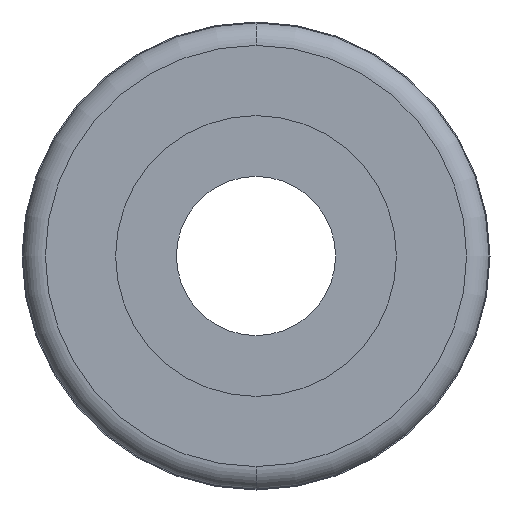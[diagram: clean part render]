
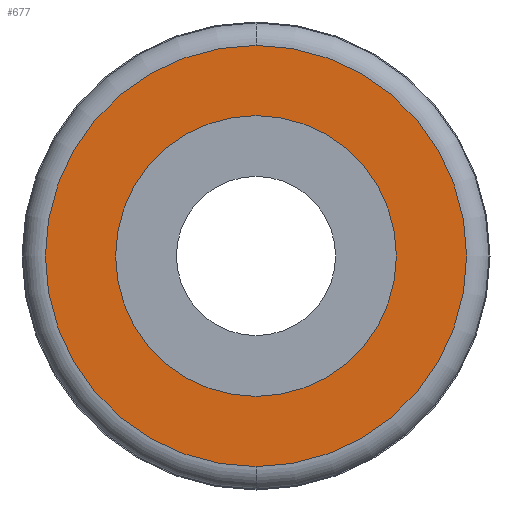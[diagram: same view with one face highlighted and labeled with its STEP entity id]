
A CAD part, front view. The second image highlights one B-rep face of the part: STEP entity #677.
In plain terms, the highlighted planar face has unit normal (0, -1, 0).
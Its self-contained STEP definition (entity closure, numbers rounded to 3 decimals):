
#28 = DIRECTION ( 'NONE',  ( 0., 1., 0. ) ) ;
#94 = EDGE_LOOP ( 'NONE', ( #203, #587 ) ) ;
#150 = AXIS2_PLACEMENT_3D ( 'NONE', #252, #28, #591 ) ;
#188 = VERTEX_POINT ( 'NONE', #640 ) ;
#189 = DIRECTION ( 'NONE',  ( 0., 0., -1. ) ) ;
#203 = ORIENTED_EDGE ( 'NONE', *, *, #213, .T. ) ;
#213 = EDGE_CURVE ( 'NONE', #536, #188, #282, .T. ) ;
#222 = AXIS2_PLACEMENT_3D ( 'NONE', #943, #947, #189 ) ;
#225 = EDGE_LOOP ( 'NONE', ( #487, #250 ) ) ;
#250 = ORIENTED_EDGE ( 'NONE', *, *, #495, .F. ) ;
#252 = CARTESIAN_POINT ( 'NONE',  ( 0., 0., 0. ) ) ;
#269 = VERTEX_POINT ( 'NONE', #434 ) ;
#282 = CIRCLE ( 'NONE', #703, 9. ) ;
#368 = CIRCLE ( 'NONE', #222, 6. ) ;
#386 = CIRCLE ( 'NONE', #930, 9. ) ;
#411 = FACE_OUTER_BOUND ( 'NONE', #94, .T. ) ;
#426 = FACE_BOUND ( 'NONE', #225, .T. ) ;
#432 = CARTESIAN_POINT ( 'NONE',  ( 0., 0., -6. ) ) ;
#434 = CARTESIAN_POINT ( 'NONE',  ( 0., 0., 6. ) ) ;
#483 = EDGE_CURVE ( 'NONE', #800, #269, #368, .T. ) ;
#487 = ORIENTED_EDGE ( 'NONE', *, *, #483, .F. ) ;
#495 = EDGE_CURVE ( 'NONE', #269, #800, #745, .T. ) ;
#536 = VERTEX_POINT ( 'NONE', #558 ) ;
#558 = CARTESIAN_POINT ( 'NONE',  ( 0., 0., 9. ) ) ;
#584 = EDGE_CURVE ( 'NONE', #188, #536, #386, .T. ) ;
#587 = ORIENTED_EDGE ( 'NONE', *, *, #584, .T. ) ;
#591 = DIRECTION ( 'NONE',  ( 0., 0., 1. ) ) ;
#603 = DIRECTION ( 'NONE',  ( 0., 0., 1. ) ) ;
#622 = CARTESIAN_POINT ( 'NONE',  ( 0., 0., 0. ) ) ;
#639 = DIRECTION ( 'NONE',  ( 0., -1., 0. ) ) ;
#640 = CARTESIAN_POINT ( 'NONE',  ( 0., 0., -9. ) ) ;
#677 = ADVANCED_FACE ( 'NONE', ( #426, #411 ), #824, .F. ) ;
#686 = CARTESIAN_POINT ( 'NONE',  ( 0., 0., 0. ) ) ;
#703 = AXIS2_PLACEMENT_3D ( 'NONE', #948, #721, #783 ) ;
#721 = DIRECTION ( 'NONE',  ( 0., -1., 0. ) ) ;
#737 = DIRECTION ( 'NONE',  ( 0., 0., -1. ) ) ;
#745 = CIRCLE ( 'NONE', #876, 6. ) ;
#760 = DIRECTION ( 'NONE',  ( 0., -1., 0. ) ) ;
#783 = DIRECTION ( 'NONE',  ( 0., 0., 1. ) ) ;
#800 = VERTEX_POINT ( 'NONE', #432 ) ;
#824 = PLANE ( 'NONE',  #150 ) ;
#876 = AXIS2_PLACEMENT_3D ( 'NONE', #686, #760, #737 ) ;
#930 = AXIS2_PLACEMENT_3D ( 'NONE', #622, #639, #603 ) ;
#943 = CARTESIAN_POINT ( 'NONE',  ( 0., 0., 0. ) ) ;
#947 = DIRECTION ( 'NONE',  ( 0., -1., 0. ) ) ;
#948 = CARTESIAN_POINT ( 'NONE',  ( 0., 0., 0. ) ) ;
